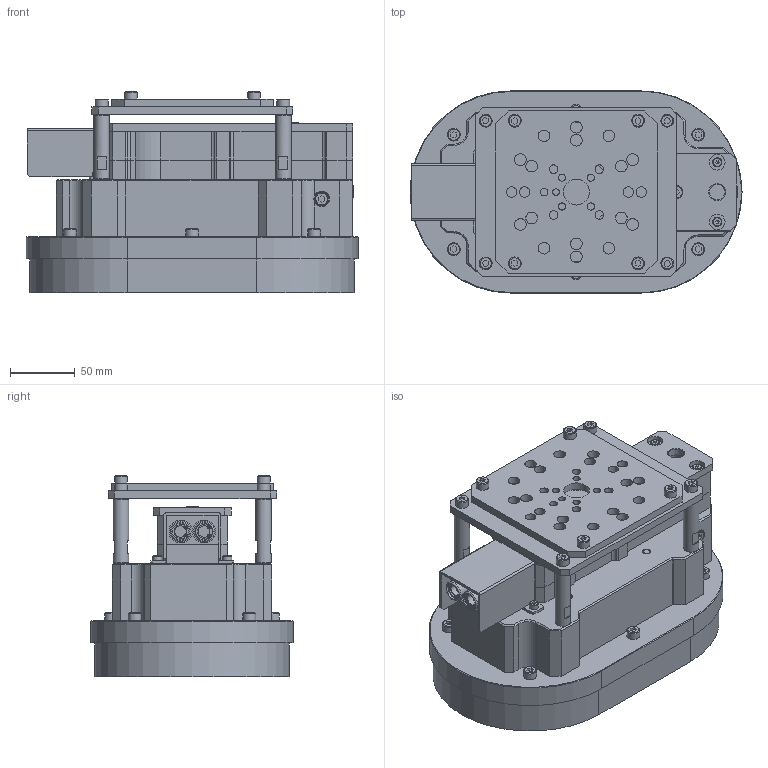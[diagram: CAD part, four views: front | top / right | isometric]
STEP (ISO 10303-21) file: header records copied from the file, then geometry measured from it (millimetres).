
FILE_DESCRIPTION(('STEP AP214'),'1');
FILE_NAME('SGP-H2A-150X250-CRT30.stp','2024-06-28T04:12:27',(' '),(' '),'Spatial InterOp 3D',' ',' ');
FILE_SCHEMA(('AUTOMOTIVE_DESIGN { 1 0 10303 214 1 1 1 1 }'));
Length unit declared in the file: millimetre
Products named in the file (86): SGP-H2-150X250-CRT30; Body; VフィルターAssy; SGP-000-3101(Vフィルタ); SGP-000-3101(Vフィルタ押さえ板); _NKJ3-4; CB4; ねじ: 穴付き - M4.0 x 8.0; COVER; SGP CVZ Assy; プラグ; SGP-サイレンサ; CTX-0418-3000; CTX-0418-3001; CTX-0418-3002; RTWS13; M4*45; _FCBS4-40-10; M4*45低頭ボルト; SGP-000-3050(供給ベース); CVZ-015-3002; CBSTS6-12; Stopper; shaft 02; shaft 03; PAD; Ring; Base; CB6; ねじ : 穴付き - M6.0 x 12.0; SGP-000-3302 FLプレートA; SETGR12-50; M6.0 x 10.0
Assembly tree (85 placements, depth 5):
  SGP-H2-150X250-CRT30
    Body
    VフィルターAssy
      SGP-000-3101(Vフィルタ)
      SGP-000-3101(Vフィルタ押さえ板)
      _NKJ3-4
      _NKJ3-4
      _NKJ3-4
      _NKJ3-4
    CB4
      ねじ: 穴付き - M4.0 x 8.0
    CB4
      ねじ: 穴付き - M4.0 x 8.0
    COVER
    SGP CVZ Assy
      プラグ
      SGP-サイレンサ
        CTX-0418-3000
        CTX-0418-3001
        CTX-0418-3002
        CTX-0418-3002
        RTWS13
      SGP-サイレンサ
        CTX-0418-3000
        CTX-0418-3001
        CTX-0418-3002
        CTX-0418-3002
        RTWS13
      M4*45低頭ボルト
        M4*45
          _FCBS4-40-10
        M4*45
          _FCBS4-40-10
        M4*45
          _FCBS4-40-10
        M4*45
          _FCBS4-40-10
        M4*45
          _FCBS4-40-10
        M4*45
          _FCBS4-40-10
      SGP-000-3050(供給ベース)
      CVZ-015-3002
      CVZ-015-3002
      プラグ
      プラグ
    CBSTS6-12
    CBSTS6-12
    CBSTS6-12
    CBSTS6-12
    Stopper
    shaft 02
    shaft 03
    shaft 03
    shaft 02
    shaft 02
    shaft 03
    shaft 03
    shaft 02
    PAD
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Bounding box: 256 x 156 x 155.12 mm (x, y, z)
Volume: 1506375.9 mm3; surface area: 519662.4 mm2
Topology: 67 solids, 67 shells, 1581 faces, 3641 edges, 2365 vertices
Faces by surface type: plane 912, cylinder 507, cone 144, torus 14, sphere 4
Full cylindrical faces by diameter (mm): 1.5 x4, 2.693 x4, 3 x12, 3.5 x8, 4 x26, 4.4 x4, 4.5 x12, 4.917 x4, 5 x21, 5.5 x4, 6 x45, 6.6 x8, 6.9 x2, 7 x20, 8 x4, 8.5 x2, 9 x20, 9.4 x2, 9.87 x14, 10 x30, 10.5 x3, 11.4 x2, 11.8 x2, 12 x12, 13 x16, 13.6 x4, 13.85 x4, 14.5 x4, 14.8 x2, 15 x20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
Entity records: 58088 total; most frequent: CARTESIAN_POINT 7800, DIRECTION 7687, ORIENTED_EDGE 6154, EDGE_CURVE 3077, AXIS2_PLACEMENT_3D 2955, EDGE_LOOP 2543, VERTEX_POINT 2302, FACE_OUTER_BOUND 1922
